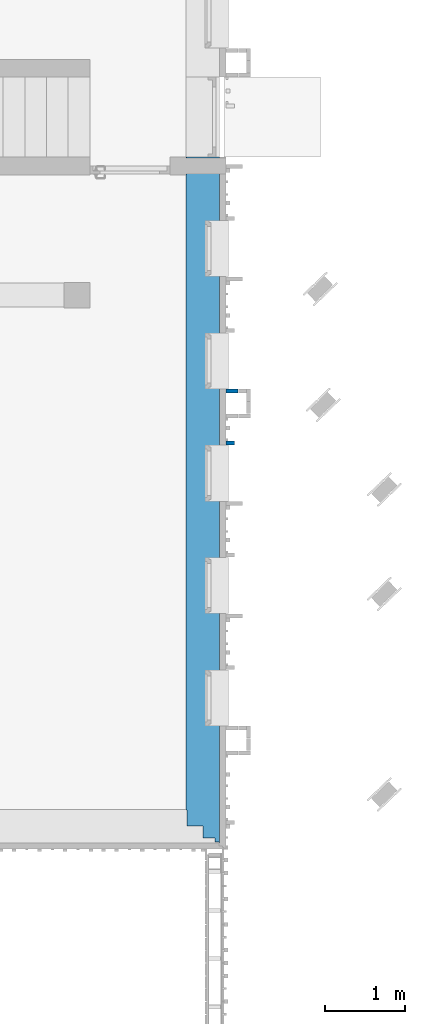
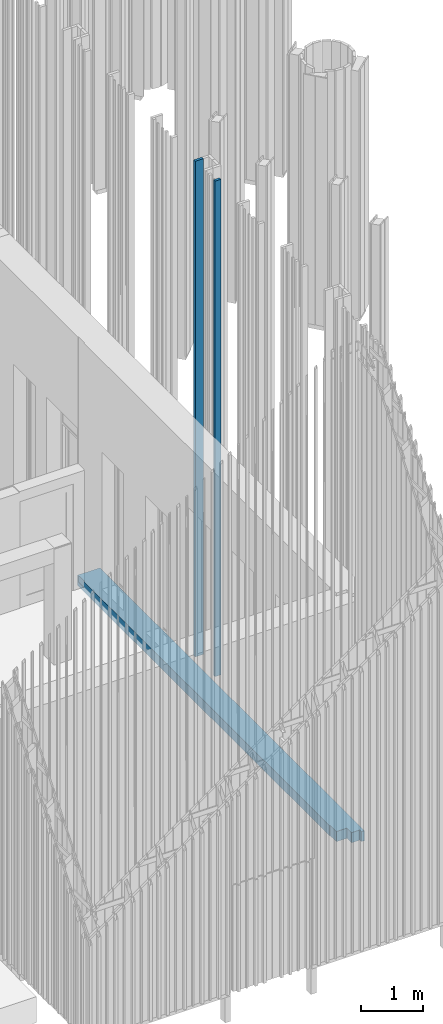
# One storey, part 180 of 390: 3 walls.
"""IFC2X3 building model written with IfcOpenShell, lengths in millimetres."""

from ifc_helpers import new_model, entity, si_unit, converted_unit, derived_unit, money_unit, direction, frame, origin_with_axes, place, context, subcontext, project, spatial, faceted_brep, material, material_list, type_object, element, save


model = new_model("IFC2X3")

# Units and contexts
model_context = context("Model", 3, precision=1e-05, world=origin_with_axes(), true_north=direction((0.0, 1.0)))
body_context = subcontext(model_context, "Body", "Model", "MODEL_VIEW")
ifc_project = project(units=[si_unit("LENGTHUNIT", "METRE", prefix="MILLI"), si_unit("AREAUNIT", "SQUARE_METRE"), si_unit("VOLUMEUNIT", "CUBIC_METRE"), converted_unit("PLANEANGLEUNIT", "DEGREE", entity("IfcPlaneAngleMeasure", 0.0174532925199), si_unit("PLANEANGLEUNIT", "RADIAN"), dimensions=[0, 0, 0, 0, 0, 0, 0]), si_unit("SOLIDANGLEUNIT", "STERADIAN"), money_unit("EUR"), converted_unit("TIMEUNIT", "Year", entity("IfcTimeMeasure", 31556926.0), si_unit("TIMEUNIT", "SECOND"), dimensions=[0, 0, 1, 0, 0, 0, 0]), si_unit("MASSUNIT", "GRAM", prefix="KILO"), si_unit("THERMODYNAMICTEMPERATUREUNIT", "DEGREE_CELSIUS"), si_unit("LUMINOUSINTENSITYUNIT", "LUMEN"), si_unit("ENERGYUNIT", "JOULE", prefix="MEGA"), derived_unit("THERMALCONDUCTANCEUNIT", [(si_unit("POWERUNIT", "WATT"), 1), (si_unit("LENGTHUNIT", "METRE"), -1), (si_unit("THERMODYNAMICTEMPERATUREUNIT", "KELVIN"), -1)]), derived_unit("SPECIFICHEATCAPACITYUNIT", [(si_unit("ENERGYUNIT", "JOULE"), 1), (si_unit("MASSUNIT", "GRAM", prefix="KILO"), -1), (si_unit("THERMODYNAMICTEMPERATUREUNIT", "KELVIN"), -1)]), derived_unit("MASSDENSITYUNIT", [(si_unit("MASSUNIT", "GRAM", prefix="KILO"), 1), (si_unit("VOLUMEUNIT", "CUBIC_METRE"), -1)])], contexts=[model_context])

# Site, building, storey
site_placement = place(None, origin_with_axes())
site = spatial("IfcSite", under=ifc_project, at=site_placement, Name="Site", CompositionType="ELEMENT")
building_placement = place(site_placement, origin_with_axes())
building = spatial("IfcBuilding", under=site, at=building_placement, Name="Building", CompositionType="ELEMENT")
storey_placement = place(building_placement, origin_with_axes())
storey = spatial("IfcBuildingStorey", under=building, at=storey_placement, Name="1 korrus", CompositionType="ELEMENT", Elevation=0.0)

# Walls
ifc_material_1 = material(Name="Site specified")
wall_type_1 = type_object("IfcWallType", Name="Puitfassaadi ribistik", PredefinedType="NOTDEFINED")
wall_1_placement = place(storey_placement, frame((139841.499999, 50327.8244708, 100.000000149), z_axis=(0.0, 0.0, 1.0), x_axis=(0.0, -1.0, 0.0)))
element("IfcWall", 1, at=wall_1_placement, inside=storey, type_object=wall_type_1, material=ifc_material_1, Name="Site specified", context=body_context, shape_type="Brep", body=[
    faceted_brep([(-25.0, -54.5, 9764.99999985), (-25.0, -54.5, 0.0), (25.0, -54.5, 0.0), (25.0, -54.5, 9764.99999985), (-25.0, 54.5, 9764.99999985), (-25.0, 54.5, 0.0), (25.0, 54.5, 0.0), (25.0, 54.5, 9764.99999985)], [[[0, 1, 2, 3]], [[4, 5, 1, 0]], [[2, 1, 5, 6]], [[3, 2, 6, 7]], [[4, 0, 3, 7]], [[7, 6, 5, 4]]]),
])
ifc_material_2 = material(Name="Krohv - Lubjakivi")
ifc_material_3 = material(Name="Raudbetoon - Konstruktsioon")
ifc_material_4 = material(Name="Soojustus - Plastik Kõva")
ifc_material_5 = material(Name="Plaat - Sein")
ifc_material_list = material_list([ifc_material_2, ifc_material_3, ifc_material_4, ifc_material_4, ifc_material_5])
wall_type_2 = type_object("IfcWallType", Name="VS-05", PredefinedType="NOTDEFINED")
wall_2_placement = place(storey_placement, frame((139289.999999, 45759.9993968, -100.0), z_axis=(0.0, 0.0, 1.0), x_axis=(1.84208615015e-08, 1.0, 0.0)))
element("IfcWall", 2, at=wall_2_placement, inside=storey, type_object=wall_type_2, material=ifc_material_list, Name="VS-05", context=body_context, shape_type="Brep", body=[
    faceted_brep([(8119.9999923, 0.000149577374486, 199.999998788), (8119.99999248, -9.99985042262, 199.999998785), (8130.0, -9.99985023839, 200.0), (8129.99999982, 0.000149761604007, 200.0), (8119.99999248, -9.99985042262, 80.0), (8119.9999923, 0.000149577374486, 80.0), (7919.99999248, -9.99985410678, 80.0), (7919.99999248, -9.99985410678, 199.999998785), (-9.99938587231, -10.0000001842, 200.0), (-9.99938587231, -10.0000001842, 0.0), (8130.0, -9.99985023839, 0.0), (8129.99999982, 0.000149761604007, 0.0), (-9.99938605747, -1.84201098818e-07, 0.0), (-9.99938605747, -1.84201098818e-07, 200.0), (7919.9999923, 0.000145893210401, 199.999998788), (7919.9999923, 0.000145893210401, 80.0)], [[[0, 1, 2, 3]], [[4, 1, 0, 5]], [[6, 7, 8, 9, 10, 2, 1, 4]], [[3, 2, 10, 11]], [[5, 0, 3, 11, 12, 13, 14, 15]], [[6, 4, 5, 15]], [[14, 7, 6, 15]], [[7, 14, 13, 8]], [[9, 8, 13, 12]], [[12, 11, 10, 9]]]),
    faceted_brep([(8130.0, -209.999850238, 200.0), (8129.99999632, -9.99985023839, 200.0), (-209.999385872, -10.0000038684, 200.0), (-209.999382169, -210.000003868, 200.0), (8130.0, -209.999850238, 0.0), (8129.99999632, -9.99985023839, 0.0), (-209.999385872, -10.0000038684, 0.0), (-209.999382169, -210.000003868, 0.0)], [[[0, 1, 2, 3]], [[0, 4, 5, 1]], [[1, 5, 6, 2]], [[3, 2, 6, 7]], [[4, 0, 3, 7]], [[5, 4, 7, 6]]]),
    faceted_brep([(8130.0, -359.999850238, 200.0), (8129.99999724, -209.999850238, 200.0), (-359.999382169, -210.000006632, 200.0), (-359.999379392, -360.000006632, 200.0), (8130.0, -359.999850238, 0.0), (8129.99999724, -209.999850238, 0.0), (-359.999382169, -210.000006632, 0.0), (-359.999379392, -360.000006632, 0.0)], [[[0, 1, 2, 3]], [[0, 4, 5, 1]], [[1, 5, 6, 2]], [[3, 2, 6, 7]], [[4, 0, 3, 7]], [[5, 4, 7, 6]]]),
    faceted_brep([(8130.0, -409.999850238, 200.0), (8129.99999908, -359.999850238, 200.0), (-409.999379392, -360.000007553, 200.0), (-409.999378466, -410.000007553, 200.0), (8130.0, -409.999850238, 0.0), (8129.99999908, -359.999850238, 0.0), (-409.999379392, -360.000007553, 0.0), (-409.999378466, -410.000007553, 0.0)], [[[0, 1, 2, 3]], [[0, 4, 5, 1]], [[1, 5, 6, 2]], [[3, 2, 6, 7]], [[4, 0, 3, 7]], [[5, 4, 7, 6]]]),
    faceted_brep([(8130.0, -417.999850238, 200.0), (8129.99999985, -409.999850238, 200.0), (-417.999378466, -410.0000077, 200.0), (-417.999378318, -418.0000077, 200.0), (8130.0, -417.999850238, 0.0), (8129.99999985, -409.999850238, 0.0), (-417.999378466, -410.0000077, 0.0), (-417.999378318, -418.0000077, 0.0)], [[[0, 1, 2, 3]], [[0, 4, 5, 1]], [[1, 5, 6, 2]], [[3, 2, 6, 7]], [[4, 0, 3, 7]], [[5, 4, 7, 6]]]),
])
wall_type_3 = type_object("IfcWallType", Name="Puitfassaadi ribisik", PredefinedType="NOTDEFINED")
wall_3_placement = place(storey_placement, frame((139861.999994, 50971.8244564, 100.000000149), z_axis=(0.0, 0.0, 1.0), x_axis=(-1.92421249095e-07, -1.0, 0.0)))
element("IfcWall", 3, at=wall_3_placement, inside=storey, type_object=wall_type_3, material=ifc_material_1, Name="Site specified", context=body_context, shape_type="Brep", body=[
    faceted_brep([(-25.0, -75.0, 9764.99999475), (-25.0, -75.0, 0.0), (25.0, -75.0, 0.0), (25.0, -75.0, 9764.99999475), (-25.0, 75.0, 9764.99999475), (-25.0, 75.0, 0.0), (25.0, 75.0, 0.0), (25.0, 75.0, 9764.99999475)], [[[0, 1, 2, 3]], [[4, 5, 1, 0]], [[2, 1, 5, 6]], [[3, 2, 6, 7]], [[4, 0, 3, 7]], [[7, 6, 5, 4]]]),
])

save(model, "model.ifc")
